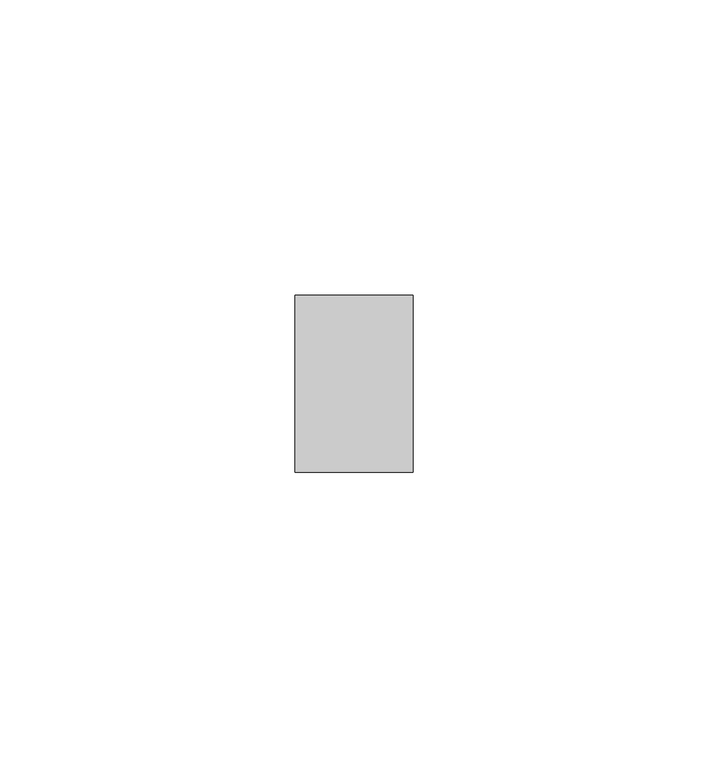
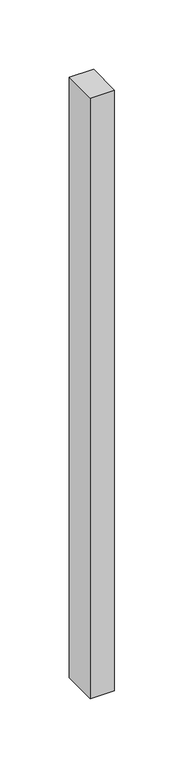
"""IFC4 building model written with IfcOpenShell, lengths in millimetres: member geometry, Прямоугольный импост : Квадрат 10 мм - Зазор между навесными плитами."""

import ifcopenshell
import ifcopenshell.guid

model = None  # the IFC model being written
_history = None  # IfcOwnerHistory: only IFC2X3 demands one
_inside = {}  # id of a spatial element -> (the spatial element, [elements in it])
_under = {}  # id of a project, library or spatial element -> (it, [spatial elements below it])
_declared = {}  # id of a project -> (the project, [libraries it declares])
_typed = {}  # id of a type object -> (the type object, [elements of that type])
_made_of = {}  # id of a material, layer set ... -> (it, [elements and type objects made of it])


def new_model(schema):
    """Start an empty IFC model of exactly this schema.

    Asked for "IFC4X3", IfcOpenShell would pick the latest addendum, in which some entities
    have other attributes; the version numbers below select the first issue.
    IFC2X3 requires an IfcOwnerHistory on every rooted entity: one is made here for all.
    """
    global model, _history
    if schema == "IFC4X3":
        model = ifcopenshell.file(schema_version=(4, 3, 0, 0))
    else:
        model = ifcopenshell.file(schema=schema)
    _inside.clear()
    _under.clear()
    _declared.clear()
    _typed.clear()
    _made_of.clear()
    _history = None
    if model.schema == "IFC2X3":
        org = make("IfcOrganization", Name="unknown")
        user = make(
            "IfcPersonAndOrganization",
            ThePerson=make("IfcPerson", FamilyName="unknown"),
            TheOrganization=org,
        )
        app = make(
            "IfcApplication",
            ApplicationDeveloper=org,
            Version="unknown",
            ApplicationFullName="unknown",
            ApplicationIdentifier="unknown",
        )
        _history = make(
            "IfcOwnerHistory",
            OwningUser=user,
            OwningApplication=app,
            ChangeAction="ADDED",
            CreationDate=0,
        )
    return model


def make(cls, **values):
    """One entity of the class cls with the attributes given. An attribute that is None is left unset."""
    return model.create_entity(
        cls, **{name: value for name, value in values.items() if value is not None}
    )


def rooted(cls, **values):
    """An entity with a GlobalId (a new one), such as an element, a storey or a relation."""
    return make(cls, GlobalId=ifcopenshell.guid.new(), OwnerHistory=_history, **values)


def si_unit(unit_type, name, prefix=None):
    """IfcSIUnit, for example si_unit("LENGTHUNIT", "METRE", prefix="MILLI")."""
    return make("IfcSIUnit", UnitType=unit_type, Prefix=prefix, Name=name)


def assignment(units):
    """IfcUnitAssignment: the units of a project."""
    return None if units is None else make("IfcUnitAssignment", Units=units)


def point(xyz):
    """IfcCartesianPoint."""
    return None if xyz is None else make("IfcCartesianPoint", Coordinates=xyz)


def direction(xyz):
    """IfcDirection."""
    return None if xyz is None else make("IfcDirection", DirectionRatios=xyz)


def frame(location, z_axis=None, x_axis=None):
    """IfcAxis2Placement3D, a coordinate frame: its origin and axes. An axis left out is left unset."""
    return make(
        "IfcAxis2Placement3D",
        Location=point(location),
        Axis=direction(z_axis),
        RefDirection=direction(x_axis),
    )


def origin():
    """The frame at (0, 0, 0) with its axes left unset."""
    return frame((0.0, 0.0, 0.0))


def place(relative_to, where):
    """IfcLocalPlacement: puts the frame where relative to a parent placement (None: the world)."""
    return make(
        "IfcLocalPlacement", PlacementRelTo=relative_to, RelativePlacement=where
    )


def context(
    kind, dimensions, precision=None, world=None, true_north=None, identifier=None
):
    """IfcGeometricRepresentationContext, for example the 3D "Model" context."""
    return make(
        "IfcGeometricRepresentationContext",
        ContextIdentifier=identifier,
        ContextType=kind,
        CoordinateSpaceDimension=dimensions,
        Precision=precision,
        WorldCoordinateSystem=world,
        TrueNorth=true_north,
    )


def project(units=None, contexts=None):
    """IfcProject with its units and contexts."""
    return rooted(
        "IfcProject",
        Name="project",
        RepresentationContexts=contexts,
        UnitsInContext=assignment(units),
    )


def spatial(cls, under=None, at=None, **own):
    """A site, building, storey or space (cls), placed at a placement, below another one or the project."""
    s = rooted(cls, ObjectPlacement=at, **own)
    if under is not None:
        _under.setdefault(under.id(), (under, []))[1].append(s)
    return s


def polyline(points):
    """IfcPolyline through the points."""
    return make("IfcPolyline", Points=[point(p) for p in points])


def outline(outer, holes=None, kind="AREA"):
    """IfcArbitraryClosedProfileDef: a profile drawn as a closed curve; with holes, ...WithVoids."""
    if holes is None:
        return make("IfcArbitraryClosedProfileDef", ProfileType=kind, OuterCurve=outer)
    return make(
        "IfcArbitraryProfileDefWithVoids",
        ProfileType=kind,
        OuterCurve=outer,
        InnerCurves=holes,
    )


def extrude(swept, where, along, depth):
    """IfcExtrudedAreaSolid: the profile swept, set in the frame where, extruded along a direction by depth."""
    return make(
        "IfcExtrudedAreaSolid",
        SweptArea=swept,
        Position=where,
        ExtrudedDirection=direction(along),
        Depth=depth,
    )


def shape(context_of_items, identifier, shape_type, items):
    """IfcShapeRepresentation: the items that make up one representation, for example the "Body"."""
    return make(
        "IfcShapeRepresentation",
        ContextOfItems=context_of_items,
        RepresentationIdentifier=identifier,
        RepresentationType=shape_type,
        Items=items,
    )


def source(mapping_origin, context_of_items, identifier, shape_type, items):
    """IfcRepresentationMap: a shape defined once, which mapped items show again and again."""
    return make(
        "IfcRepresentationMap",
        MappingOrigin=mapping_origin,
        MappedRepresentation=shape(context_of_items, identifier, shape_type, items),
    )


def transform(
    local_origin,
    x_axis=None,
    y_axis=None,
    z_axis=None,
    scale=None,
    scale2=None,
    scale3=None,
    uniform=True,
):
    """IfcCartesianTransformationOperator3D, or its non-uniform kind. x_axis, y_axis, z_axis: its Axis1, 2, 3."""
    if uniform:
        return make(
            "IfcCartesianTransformationOperator3D",
            Axis1=direction(x_axis),
            Axis2=direction(y_axis),
            LocalOrigin=point(local_origin),
            Scale=scale,
            Axis3=direction(z_axis),
        )
    return make(
        "IfcCartesianTransformationOperator3DnonUniform",
        Axis1=direction(x_axis),
        Axis2=direction(y_axis),
        LocalOrigin=point(local_origin),
        Scale=scale,
        Axis3=direction(z_axis),
        Scale2=scale2,
        Scale3=scale3,
    )


def mapped(mapping_source, mapping_target):
    """IfcMappedItem: shows the shape of a source again, moved by a transform."""
    return make(
        "IfcMappedItem", MappingSource=mapping_source, MappingTarget=mapping_target
    )


def made_of(thing, what):
    """Note that an element or type object is made of a material, layer set ...; save() writes the relation."""
    if what is not None:
        _made_of.setdefault(what.id(), (what, []))[1].append(thing)
    return thing


def element(
    cls,
    number,
    at=None,
    inside=None,
    cuts=None,
    type_object=None,
    material=None,
    context=None,
    identifier="Body",
    shape_type=None,
    held_by="IfcProductDefinitionShape",
    body=None,
    shapes=None,
    **own,
):
    """One element of the class cls, such as IfcWall. Its Tag is "e" and its number.

    at: its placement. inside: the storey or other place that contains it. cuts: it is an
    opening in that element (IfcRelVoidsElement). A single representation is given by context,
    identifier, shape_type and body (its items); several are given by shapes. held_by: the class
    of the entity that holds the representations. save() writes the other relations.
    """
    e = rooted(cls, Tag="e%d" % number, ObjectPlacement=at, **own)
    if body is not None:
        shapes = [shape(context, identifier, shape_type, body)]
    if shapes is not None:
        e.Representation = make(held_by, Representations=shapes)
    if inside is not None:
        _inside.setdefault(inside.id(), (inside, []))[1].append(e)
    if cuts is not None:
        rooted(
            "IfcRelVoidsElement", RelatingBuildingElement=cuts, RelatedOpeningElement=e
        )
    if type_object is not None:
        _typed.setdefault(type_object.id(), (type_object, []))[1].append(e)
    return made_of(e, material)


def aggregate(whole, parts):
    """IfcRelAggregates: a whole, such as a stair, and the parts it consists of."""
    return rooted("IfcRelAggregates", RelatingObject=whole, RelatedObjects=parts)


def save(model, path):
    """Write the relations noted so far, then the file.

    IfcRelAggregates (storeys below a building ...), IfcRelContainedInSpatialStructure (elements
    in a storey), IfcRelDefinesByType, IfcRelAssociatesMaterial and IfcRelDeclares: one each for
    every whole, place, type object, material and project.
    """
    for whole, parts in _under.values():
        aggregate(whole, parts)
    for where, things in _inside.values():
        rooted(
            "IfcRelContainedInSpatialStructure",
            RelatedElements=things,
            RelatingStructure=where,
        )
    for kind, things in _typed.values():
        rooted("IfcRelDefinesByType", RelatedObjects=things, RelatingType=kind)
    for what, things in _made_of.values():
        rooted("IfcRelAssociatesMaterial", RelatedObjects=things, RelatingMaterial=what)
    for by, libraries in _declared.values():
        rooted("IfcRelDeclares", RelatingContext=by, RelatedDefinitions=libraries)
    model.write(path)


def member_568bc5b4(model_context):
    return source(origin(), model_context, "Body", "SweptSolid", [
        extrude(outline(polyline([(0.0, 15.0), (0.0, -15.0), (-20.0, -15.0), (-20.0, 15.0), (0.0, 15.0)])), frame((0.0, 0.0, -527.2770702), z_axis=(0.0, 0.0, 1.0), x_axis=(1.0, 0.0, 0.0)), (0.0, 0.0, 1.0), 527.2770702),
    ])


if __name__ == "__main__":
    model = new_model("IFC4")
    model_context = context("Model", 3, world=origin())
    ifc_project = project(units=[si_unit("LENGTHUNIT", "METRE", prefix="MILLI")], contexts=[model_context])
    site = spatial("IfcSite", under=ifc_project)
    building = spatial("IfcBuilding", under=site)
    placement = place(None, origin())
    member_shape = member_568bc5b4(model_context)
    element("IfcMember", 1, ObjectType="Прямоугольный импост : Квадрат 10 мм - Зазор между навесными плитами", at=placement, inside=building, context=model_context, shape_type="MappedRepresentation", body=[
        mapped(member_shape, transform((0.0, 0.0, 0.0), x_axis=(1.0, 0.0, 0.0), y_axis=(0.0, 1.0, 0.0), z_axis=(0.0, 0.0, 1.0))),
    ])
    save(model, "model.ifc")
